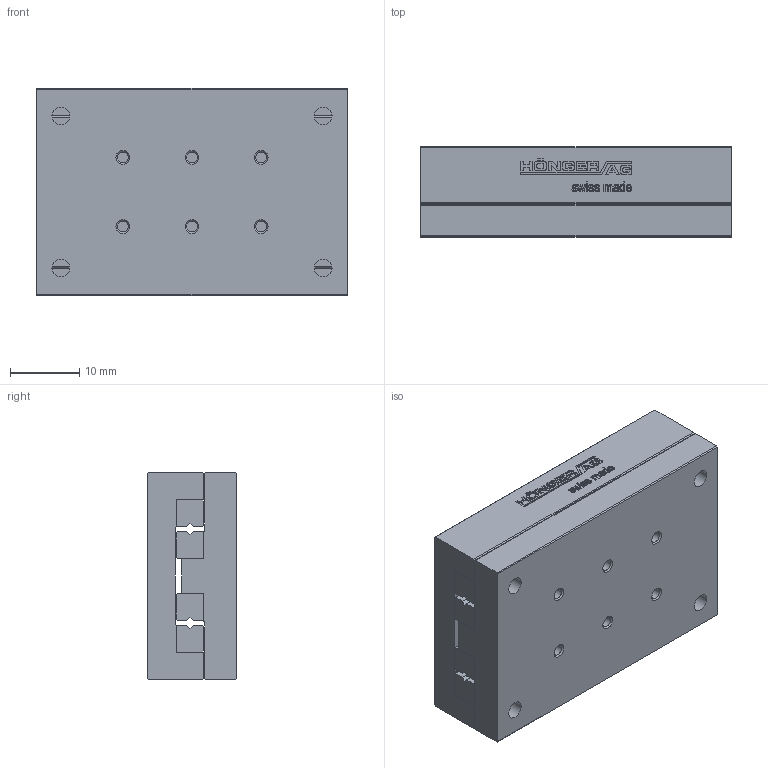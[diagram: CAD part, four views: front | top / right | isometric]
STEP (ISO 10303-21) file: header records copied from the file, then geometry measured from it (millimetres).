
FILE_DESCRIPTION(/* description */ ('STEP AP214'),/* implementation_level */ '2;1');
FILE_NAME(/* name */ 'NKL 1-45(0)',/* time_stamp */ '2025-04-23T07:56:23+02:00',/* author */ ('License CC BY-ND 4.0'),/* organization */ ('CADENAS'),/* preprocessor_version */ 'ST-DEVELOPER v19.3',/* originating_system */ 'PARTsolutions',/* authorisation */ ' ');
FILE_SCHEMA (('AUTOMOTIVE_DESIGN {1 0 10303 214 3 1 1}'));
Length unit declared in the file: millimetre
Products named in the file (3): NKL 1-45(0); NKL 1-45_1; NKL 1-45_2
Assembly tree (2 placements, depth 2):
  NKL 1-45(0)
    NKL 1-45_1
    NKL 1-45_2
Bounding box: 45 x 13 x 30 mm (x, y, z)
Volume: 16639.2 mm3; surface area: 9968.7 mm2
Topology: 2 solids, 2 shells, 627 faces, 1706 edges, 1124 vertices
Faces by surface type: cylinder 312, plane 291, cone 24
Full cylindrical faces by diameter (mm): 1.567 x12, 2.55 x4, 4.3 x4
Entity records: 19843 total; most frequent: DIRECTION 3570, CARTESIAN_POINT 3416, ORIENTED_EDGE 3324, EDGE_CURVE 1662, AXIS2_PLACEMENT_3D 1278, VERTEX_POINT 1124, LINE 1014, VECTOR 1014
